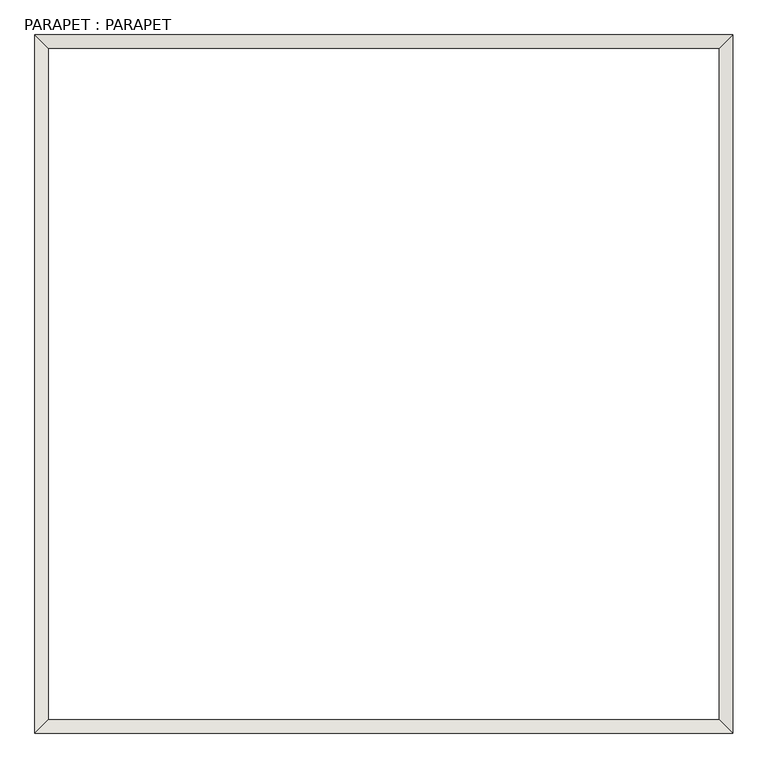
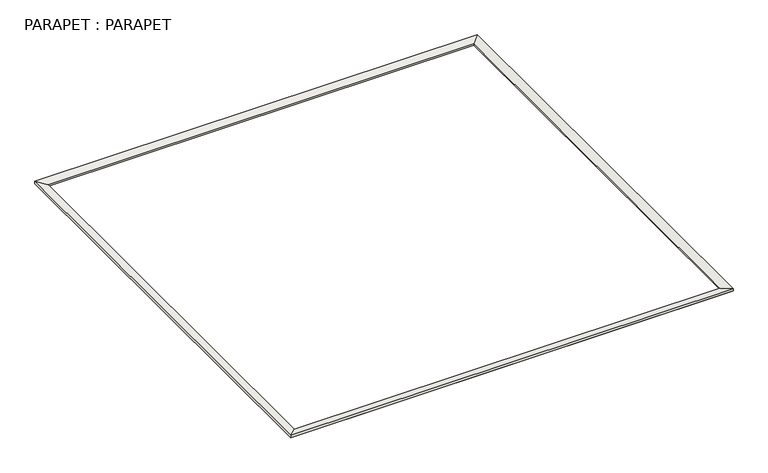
"""IFC4 building model written with IfcOpenShell, lengths in millimetres: wall geometry, PARAPET : PARAPET."""

from ifc_helpers import new_model, si_unit, origin, place, context, project, spatial, faceted_brep, source, transform, mapped, element, save


def parapet_parapet_310be217(model_context):
    return source(origin(), model_context, "Body", "Brep", [
        faceted_brep([(-11201.3871887, -924.430099, 12300.0), (-11201.3871887, -924.430099, 12320.0), (4354.232124, -924.430099, 12320.0), (4354.232124, -924.430099, 12300.0), (-10921.3871887, -1204.430099, 12350.0), (-10921.3871887, -1204.430099, 12300.0), (4074.232124, -1204.430099, 12300.0), (4074.232124, -1204.430099, 12350.0), (-11221.3871887, -904.430099, 12400.0), (4374.232124, -904.430099, 12400.0), (-11221.3871887, -904.430099, 12320.0), (4374.232124, -904.430099, 12320.0), (4354.232124, -16484.430099, 12320.0), (4354.232124, -16484.430099, 12300.0), (4074.232124, -16204.430099, 12300.0), (4074.232124, -16204.430099, 12350.0), (4374.232124, -16504.430099, 12400.0), (4374.232124, -16504.430099, 12320.0), (-11201.3871887, -16484.430099, 12320.0), (-11201.3871887, -16484.430099, 12300.0), (-10921.3871887, -16204.430099, 12300.0), (-10921.3871887, -16204.430099, 12350.0), (-11221.3871887, -16504.430099, 12400.0), (-11221.3871887, -16504.430099, 12320.0)], [[[0, 1, 2, 3]], [[4, 5, 6, 7]], [[8, 4, 7, 9]], [[10, 8, 9, 11]], [[3, 2, 12, 13]], [[7, 6, 14, 15]], [[9, 7, 15, 16]], [[11, 9, 16, 17]], [[13, 12, 18, 19]], [[15, 14, 20, 21]], [[16, 15, 21, 22]], [[17, 16, 22, 23]], [[19, 18, 1, 0]], [[3, 13, 19, 0], [5, 20, 14, 6]], [[21, 20, 5, 4]], [[22, 21, 4, 8]], [[23, 22, 8, 10]], [[11, 17, 23, 10], [1, 18, 12, 2]]]),
    ])


if __name__ == "__main__":
    model = new_model("IFC4")
    model_context = context("Model", 3, world=origin())
    ifc_project = project(units=[si_unit("LENGTHUNIT", "METRE", prefix="MILLI")], contexts=[model_context])
    site = spatial("IfcSite", under=ifc_project)
    building = spatial("IfcBuilding", under=site)
    placement = place(None, origin())
    parapet_parapet_shape = parapet_parapet_310be217(model_context)
    element("IfcWall", 1, ObjectType="PARAPET : PARAPET", at=placement, inside=building, context=model_context, shape_type="MappedRepresentation", body=[
        mapped(parapet_parapet_shape, transform((0.0, 0.0, 0.0), x_axis=(1.0, 0.0, 0.0), y_axis=(0.0, 1.0, 0.0), z_axis=(0.0, 0.0, 1.0))),
    ])
    save(model, "model.ifc")
